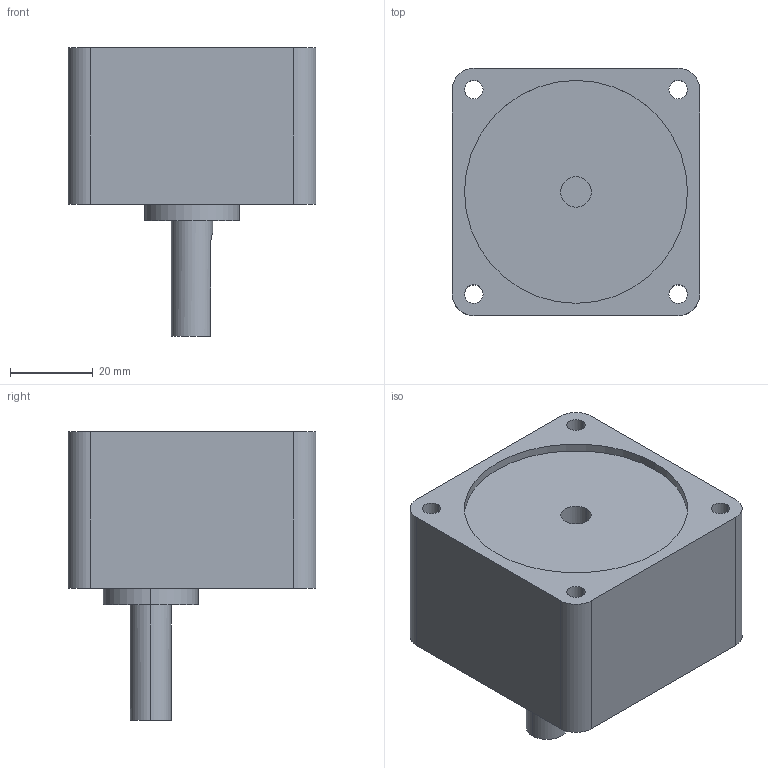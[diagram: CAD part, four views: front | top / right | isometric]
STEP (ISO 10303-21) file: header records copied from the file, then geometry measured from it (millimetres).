
FILE_DESCRIPTION (( 'STEP AP203' ), '1' );
FILE_NAME ('A1889B.step', '2024-04-24T09:03:19', ( '' ), ( '' ), 'SwSTEP 2.0', 'SolidWorks 2023', '' );
FILE_SCHEMA (( 'CONFIG_CONTROL_DESIGN' ));
Length unit declared in the file: millimetre
Products named in the file (1): A1889B
Bounding box: 60 x 60 x 70 mm (x, y, z)
Volume: 130427.9 mm3; surface area: 20141.4 mm2
Topology: 1 solids, 1 shells, 37 faces, 90 edges, 60 vertices
Faces by surface type: cylinder 23, plane 14
Entity records: 1228 total; most frequent: CARTESIAN_POINT 218, DIRECTION 209, ORIENTED_EDGE 180, EDGE_CURVE 90, AXIS2_PLACEMENT_3D 83, VERTEX_POINT 60, EDGE_LOOP 50, CIRCLE 45
